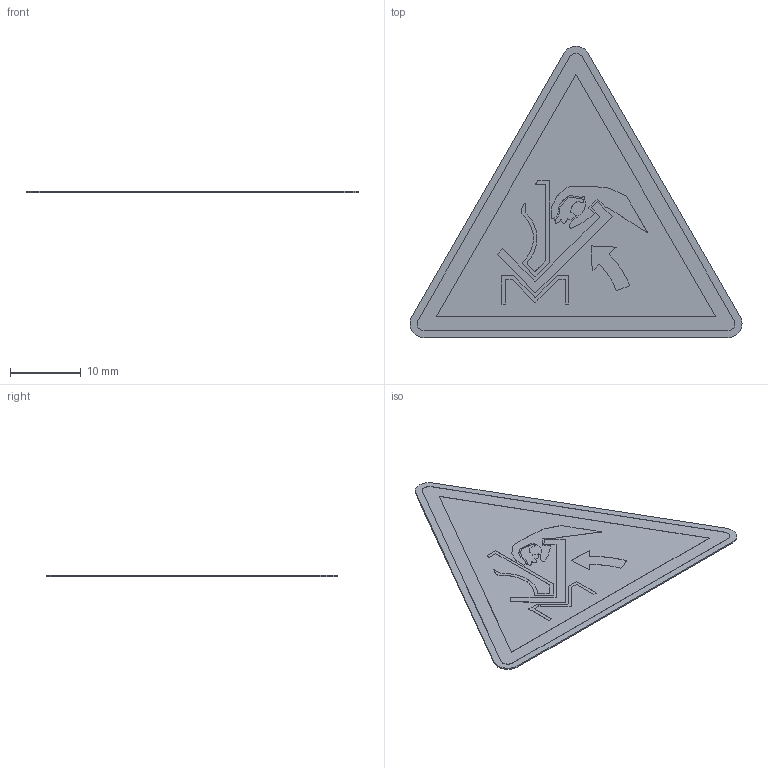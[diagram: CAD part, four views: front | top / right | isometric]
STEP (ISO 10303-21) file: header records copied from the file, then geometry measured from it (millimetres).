
FILE_DESCRIPTION (( 'STEP AP214' ), '1' );
FILE_NAME ('W031_Handquetschung zwischen dem Werkzeug der Abkantpresse.STEP', '2022-03-03T14:08:37', ( '' ), ( '' ), 'SwSTEP 2.0', 'SolidWorks 2021', '' );
FILE_SCHEMA (( 'AUTOMOTIVE_DESIGN' ));
Length unit declared in the file: millimetre
Products named in the file (1): W031_Handquetschung zwischen dem Werkzeug der Abkantpresse
Bounding box: 47.07 x 41.3 x 0.22 mm (x, y, z)
Volume: 221.1 mm3; surface area: 2184.3 mm2
Topology: 1 solids, 1 shells, 244 faces, 702 edges, 468 vertices
Faces by surface type: plane 184, cylinder 60
Entity records: 10565 total; most frequent: CARTESIAN_POINT 1415, ORIENTED_EDGE 1404, DIRECTION 1312, EDGE_CURVE 702, LINE 582, VECTOR 582, VERTEX_POINT 468, AXIS2_PLACEMENT_3D 365
